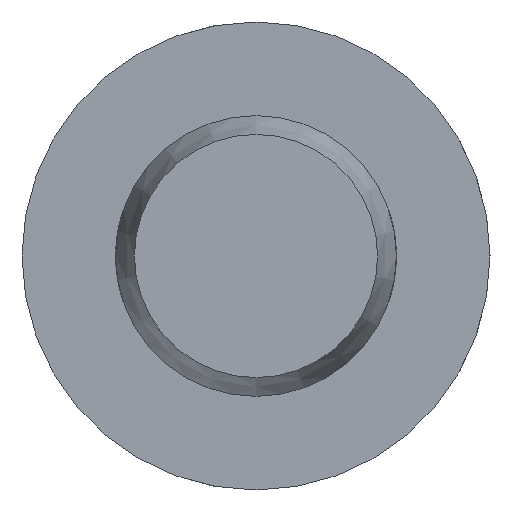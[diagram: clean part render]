
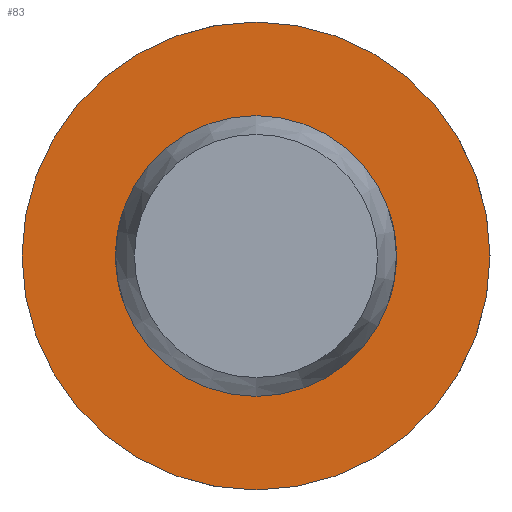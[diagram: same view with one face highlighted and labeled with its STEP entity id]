
A CAD part, left-side view. The second image highlights one B-rep face of the part: STEP entity #83.
In plain terms, the highlighted planar face has unit normal (-1, 0, 0).
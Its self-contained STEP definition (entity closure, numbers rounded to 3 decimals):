
#83 = ADVANCED_FACE( '', ( #129, #130 ), #131, .F. );
#129 = FACE_OUTER_BOUND( '', #208, .T. );
#130 = FACE_BOUND( '', #209, .T. );
#131 = PLANE( '', #210 );
#208 = EDGE_LOOP( '', ( #325 ) );
#209 = EDGE_LOOP( '', ( #326 ) );
#210 = AXIS2_PLACEMENT_3D( '', #327, #328, #329 );
#325 = ORIENTED_EDGE( '', *, *, #493, .F. );
#326 = ORIENTED_EDGE( '', *, *, #483, .T. );
#327 = CARTESIAN_POINT( '', ( 37., 3., 0. ) );
#328 = DIRECTION( '', ( 1., 0., 0. ) );
#329 = DIRECTION( '', ( 0., 0., -1. ) );
#483 = EDGE_CURVE( '', #554, #554, #555, .T. );
#493 = EDGE_CURVE( '', #572, #572, #573, .T. );
#554 = VERTEX_POINT( '', #741 );
#555 = CIRCLE( '', #742, 3. );
#572 = VERTEX_POINT( '', #850 );
#573 = CIRCLE( '', #851, 5. );
#741 = CARTESIAN_POINT( '', ( 37., 0., -3. ) );
#742 = AXIS2_PLACEMENT_3D( '', #914, #915, #916 );
#850 = CARTESIAN_POINT( '', ( 37., 0., -5. ) );
#851 = AXIS2_PLACEMENT_3D( '', #935, #936, #937 );
#914 = CARTESIAN_POINT( '', ( 37., 0., 0. ) );
#915 = DIRECTION( '', ( 1., 0., 0. ) );
#916 = DIRECTION( '', ( 0., 0., -1. ) );
#935 = CARTESIAN_POINT( '', ( 37., 0., 0. ) );
#936 = DIRECTION( '', ( 1., 0., 0. ) );
#937 = DIRECTION( '', ( 0., 0., -1. ) );
